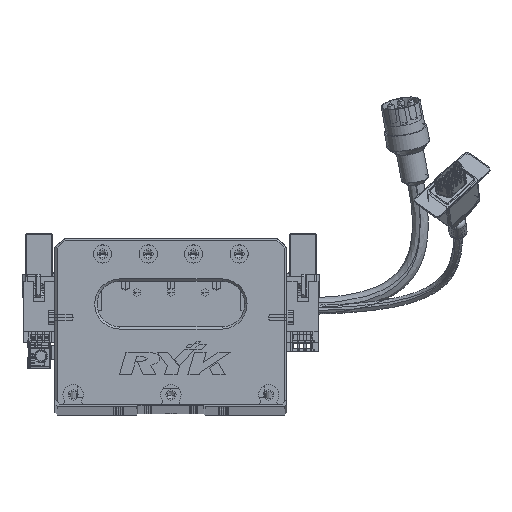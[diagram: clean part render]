
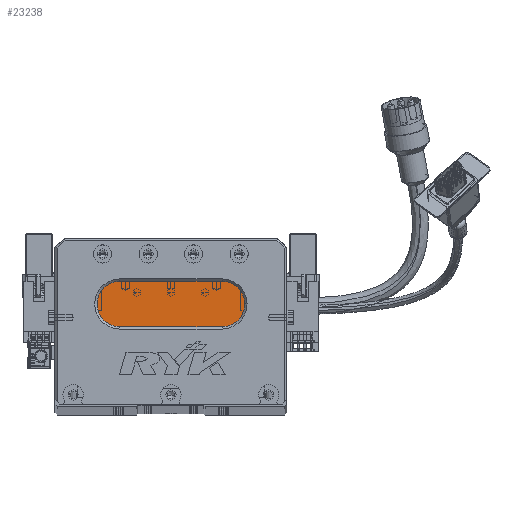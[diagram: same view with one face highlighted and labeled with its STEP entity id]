
A CAD part, top view. The second image highlights one B-rep face of the part: STEP entity #23238.
In plain terms, the highlighted planar face has unit normal (0, 0, 1) as drawn and (0, 0, -1) by its records, which use the part's own axes.
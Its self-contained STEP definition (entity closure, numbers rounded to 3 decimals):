
#1375 = VERTEX_POINT ( 'NONE', #17194 ) ;
#1453 = EDGE_CURVE ( 'NONE', #14244, #27528, #22400, .T. ) ;
#3012 = DIRECTION ( 'NONE',  ( -1., 0., 0. ) ) ;
#3622 = ORIENTED_EDGE ( 'NONE', *, *, #1453, .T. ) ;
#3955 = EDGE_CURVE ( 'NONE', #27528, #1375, #30085, .T. ) ;
#8735 = CARTESIAN_POINT ( 'NONE',  ( 28.5, 44., 13. ) ) ;
#9125 = AXIS2_PLACEMENT_3D ( 'NONE', #8735, #54064, #47363 ) ;
#9447 = VECTOR ( 'NONE', #75382, 1000. ) ;
#11421 = CIRCLE ( 'NONE', #58909, 10. ) ;
#11856 = EDGE_CURVE ( 'NONE', #25552, #14244, #25121, .T. ) ;
#11977 = CARTESIAN_POINT ( 'NONE',  ( 28.5, 34., 13. ) ) ;
#14244 = VERTEX_POINT ( 'NONE', #30658 ) ;
#16306 = ORIENTED_EDGE ( 'NONE', *, *, #17583, .T. ) ;
#17194 = CARTESIAN_POINT ( 'NONE',  ( 73.5, 34., 13. ) ) ;
#17583 = EDGE_CURVE ( 'NONE', #20463, #25552, #11421, .T. ) ;
#18899 = DIRECTION ( 'NONE',  ( 0., 0., -1. ) ) ;
#20463 = VERTEX_POINT ( 'NONE', #11977 ) ;
#22400 = LINE ( 'NONE', #42815, #49286 ) ;
#23238 = ADVANCED_FACE ( 'NONE', ( #54394 ), #70958, .T. ) ;
#24912 = ORIENTED_EDGE ( 'NONE', *, *, #3955, .T. ) ;
#25121 = CIRCLE ( 'NONE', #9125, 10. ) ;
#25552 = VERTEX_POINT ( 'NONE', #44462 ) ;
#25846 = DIRECTION ( 'NONE',  ( -1., 0., 0. ) ) ;
#27528 = VERTEX_POINT ( 'NONE', #36193 ) ;
#28624 = EDGE_CURVE ( 'NONE', #1375, #20463, #80146, .T. ) ;
#30085 = CIRCLE ( 'NONE', #48581, 10. ) ;
#30658 = CARTESIAN_POINT ( 'NONE',  ( 28.5, 54., 13. ) ) ;
#36193 = CARTESIAN_POINT ( 'NONE',  ( 73.5, 54., 13. ) ) ;
#42260 = DIRECTION ( 'NONE',  ( 0., 0., -1. ) ) ;
#42815 = CARTESIAN_POINT ( 'NONE',  ( 73.5, 54., 13. ) ) ;
#44462 = CARTESIAN_POINT ( 'NONE',  ( 18.5, 44., 13. ) ) ;
#45632 = DIRECTION ( 'NONE',  ( 0., 0., -1. ) ) ;
#47363 = DIRECTION ( 'NONE',  ( -1., 0., 0. ) ) ;
#48071 = DIRECTION ( 'NONE',  ( 1., 0., 0. ) ) ;
#48581 = AXIS2_PLACEMENT_3D ( 'NONE', #69825, #18899, #25846 ) ;
#48926 = CARTESIAN_POINT ( 'NONE',  ( 73.5, 34., 13. ) ) ;
#49286 = VECTOR ( 'NONE', #48071, 1000. ) ;
#53940 = CARTESIAN_POINT ( 'NONE',  ( 28.5, 44., 13. ) ) ;
#54064 = DIRECTION ( 'NONE',  ( 0., 0., -1. ) ) ;
#54394 = FACE_OUTER_BOUND ( 'NONE', #82129, .T. ) ;
#56792 = ORIENTED_EDGE ( 'NONE', *, *, #28624, .T. ) ;
#58909 = AXIS2_PLACEMENT_3D ( 'NONE', #53940, #42260, #3012 ) ;
#69825 = CARTESIAN_POINT ( 'NONE',  ( 73.5, 44., 13. ) ) ;
#70679 = DIRECTION ( 'NONE',  ( -1., 0., 0. ) ) ;
#70958 = PLANE ( 'NONE',  #72567 ) ;
#72567 = AXIS2_PLACEMENT_3D ( 'NONE', #77880, #45632, #70679 ) ;
#75382 = DIRECTION ( 'NONE',  ( -1., 0., 0. ) ) ;
#77880 = CARTESIAN_POINT ( 'NONE',  ( 73.5, 44., 13. ) ) ;
#78109 = ORIENTED_EDGE ( 'NONE', *, *, #11856, .T. ) ;
#80146 = LINE ( 'NONE', #48926, #9447 ) ;
#82129 = EDGE_LOOP ( 'NONE', ( #24912, #56792, #16306, #78109, #3622 ) ) ;
